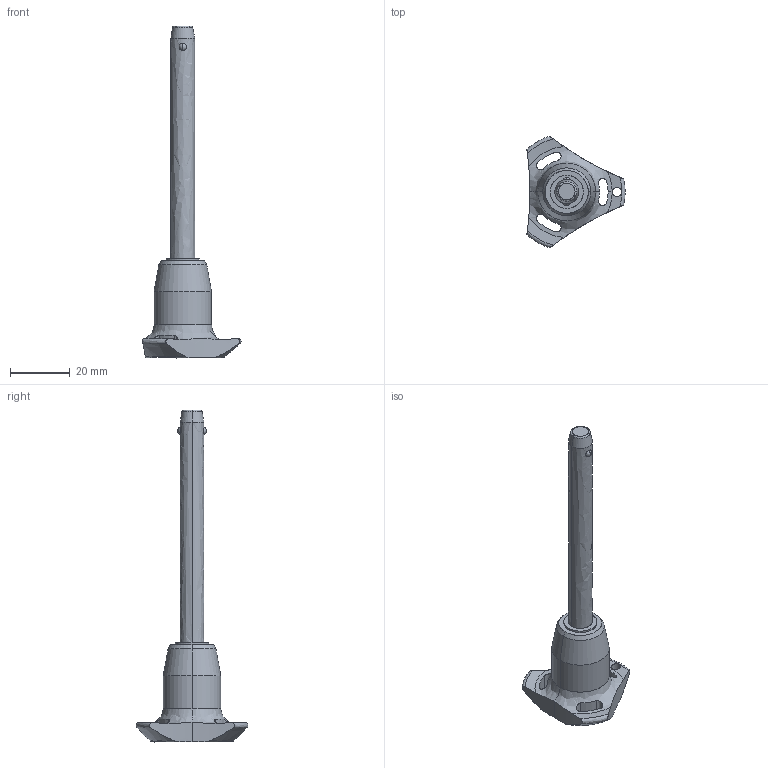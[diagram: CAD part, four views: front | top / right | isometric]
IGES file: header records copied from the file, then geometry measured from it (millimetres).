
Start section: SolidWorks IGES file using analytic representation for surfaces
Global section: file name: C:\Users\ianosborn\Desktop\QR1714_v2\QR1714_v2_20251112_IGES\QR1714.M08-070-S.igs; native system: SolidWorks 2019; preprocessor: SolidWorks 2019; author: IanOsborn; date: 251112.100455; units: millimetre
Bounding box: 33 x 37.51 x 111.5 mm (x, y, z)
Surface area: 5813.9 mm2 (no closed solid volume)
Topology: 0 solids, 0 shells, 65 faces, 1274 edges, 1270 vertices
Faces by surface type: revolution 50, bspline 15
